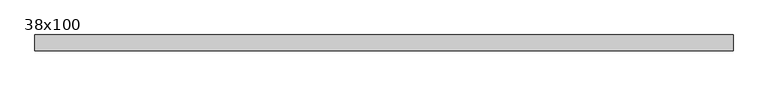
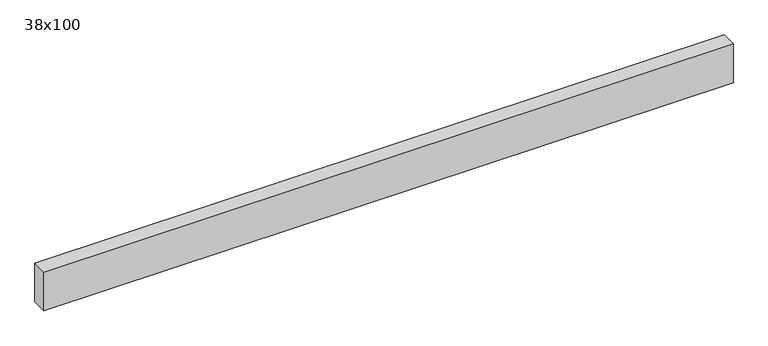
"""IFC4 building model written with IfcOpenShell, lengths in millimetres: beam geometry, Poutre - Bois de construction de dimensions courantes : 38x100."""

from ifc_helpers import new_model, si_unit, frame, origin, place, context, project, spatial, polyline, outline, extrude, source, transform, mapped, element, save


def beam_38x100_1a8f83ac(model_context):
    return source(origin(), model_context, "Body", "SweptSolid", [
        extrude(outline(polyline([(762.5, 19.05), (762.5, -19.05), (-922.5, -19.05), (-922.5, 19.05), (762.5, 19.05)])), frame((0.0, 0.0, -50.0), z_axis=(0.0, 0.0, 1.0), x_axis=(1.0, 0.0, 0.0)), (0.0, 0.0, 1.0), 100.0),
    ])


if __name__ == "__main__":
    model = new_model("IFC4")
    model_context = context("Model", 3, world=origin())
    ifc_project = project(units=[si_unit("LENGTHUNIT", "METRE", prefix="MILLI")], contexts=[model_context])
    site = spatial("IfcSite", under=ifc_project)
    building = spatial("IfcBuilding", under=site)
    placement = place(None, origin())
    beam_38x100_shape = beam_38x100_1a8f83ac(model_context)
    element("IfcBeam", 1, ObjectType="Poutre - Bois de construction de dimensions courantes : 38x100", at=placement, inside=building, context=model_context, shape_type="MappedRepresentation", body=[
        mapped(beam_38x100_shape, transform((0.0, 0.0, 0.0), x_axis=(1.0, 0.0, 0.0), y_axis=(0.0, 1.0, 0.0), z_axis=(0.0, 0.0, 1.0))),
    ])
    save(model, "model.ifc")
